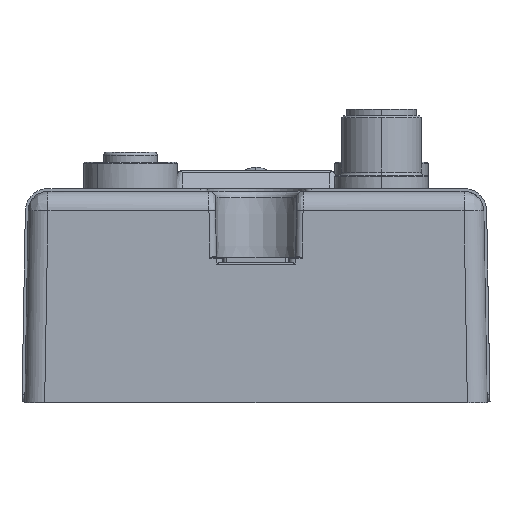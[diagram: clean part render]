
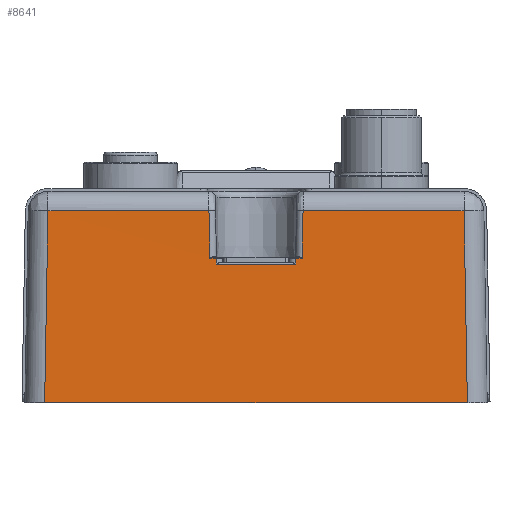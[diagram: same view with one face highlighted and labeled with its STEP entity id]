
A CAD part, front view. The second image highlights one B-rep face of the part: STEP entity #8641.
In plain terms, the highlighted planar face has unit normal (0, -1, 0.018).
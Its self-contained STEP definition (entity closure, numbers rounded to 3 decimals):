
#94 = VECTOR ( 'NONE', #46436, 1000. ) ;
#240 = DIRECTION ( 'NONE',  ( -0.017, 0.017, 1. ) ) ;
#1642 = LINE ( 'NONE', #53642, #23907 ) ;
#2965 = ORIENTED_EDGE ( 'NONE', *, *, #16275, .F. ) ;
#3152 = CARTESIAN_POINT ( 'NONE',  ( -7.123, -46.001, -2.948 ) ) ;
#3239 = VECTOR ( 'NONE', #22641, 1000. ) ;
#3610 = DIRECTION ( 'NONE',  ( 1., 0., 0. ) ) ;
#4144 = LINE ( 'NONE', #32236, #26419 ) ;
#4747 = DIRECTION ( 'NONE',  ( -0.017, -0.017, -1. ) ) ;
#5826 = CARTESIAN_POINT ( 'NONE',  ( 6.012, -46.118, -10.098 ) ) ;
#6117 = CARTESIAN_POINT ( 'NONE',  ( -34.441, -45.941, 0. ) ) ;
#6148 = ORIENTED_EDGE ( 'NONE', *, *, #49712, .F. ) ;
#6673 = VECTOR ( 'NONE', #3610, 1000. ) ;
#7989 = ORIENTED_EDGE ( 'NONE', *, *, #12023, .T. ) ;
#8093 = LINE ( 'NONE', #30284, #6673 ) ;
#8608 = LINE ( 'NONE', #57698, #53236 ) ;
#8641 = ADVANCED_FACE ( 'NONE', ( #34642 ), #41799, .T. ) ;
#8847 = ORIENTED_EDGE ( 'NONE', *, *, #26259, .F. ) ;
#9290 = VECTOR ( 'NONE', #25225, 1000. ) ;
#11621 = VERTEX_POINT ( 'NONE', #41760 ) ;
#12023 = EDGE_CURVE ( 'NONE', #43980, #33550, #8608, .T. ) ;
#12284 = DIRECTION ( 'NONE',  ( -0.017, 0.017, 1. ) ) ;
#12405 = VECTOR ( 'NONE', #12284, 1000. ) ;
#12699 = VECTOR ( 'NONE', #54310, 1000. ) ;
#13102 = EDGE_CURVE ( 'NONE', #44619, #13925, #28041, .T. ) ;
#13925 = VERTEX_POINT ( 'NONE', #23413 ) ;
#14080 = LINE ( 'NONE', #23105, #12699 ) ;
#14594 = ORIENTED_EDGE ( 'NONE', *, *, #30522, .T. ) ;
#15022 = LINE ( 'NONE', #31646, #37393 ) ;
#15243 = CARTESIAN_POINT ( 'NONE',  ( 6.012, -46.118, -10.098 ) ) ;
#16211 = DIRECTION ( 'NONE',  ( -1., 0., 0. ) ) ;
#16275 = EDGE_CURVE ( 'NONE', #29130, #16699, #8093, .T. ) ;
#16332 = CARTESIAN_POINT ( 'NONE',  ( -6.012, -46.118, -10.098 ) ) ;
#16699 = VERTEX_POINT ( 'NONE', #3152 ) ;
#18171 = CARTESIAN_POINT ( 'NONE',  ( 31.432, -45.932, 0.548 ) ) ;
#19607 = LINE ( 'NONE', #33978, #30082 ) ;
#19746 = LINE ( 'NONE', #51929, #9290 ) ;
#19927 = VERTEX_POINT ( 'NONE', #37349 ) ;
#21778 = EDGE_CURVE ( 'NONE', #48766, #43980, #35673, .T. ) ;
#21971 = EDGE_CURVE ( 'NONE', #19927, #48766, #19607, .T. ) ;
#22159 = DIRECTION ( 'NONE',  ( -1., 0., 0. ) ) ;
#22352 = CARTESIAN_POINT ( 'NONE',  ( 0., -46.5, -32. ) ) ;
#22641 = DIRECTION ( 'NONE',  ( 0.017, -0.017, -1. ) ) ;
#23105 = CARTESIAN_POINT ( 'NONE',  ( -17.221, -45.993, -2.948 ) ) ;
#23233 = DIRECTION ( 'NONE',  ( -1., 0., 0. ) ) ;
#23413 = CARTESIAN_POINT ( 'NONE',  ( -32., -46.5, -32. ) ) ;
#23907 = VECTOR ( 'NONE', #240, 1000. ) ;
#24037 = DIRECTION ( 'NONE',  ( 0., -1., 0.017 ) ) ;
#25225 = DIRECTION ( 'NONE',  ( -0.017, -0.017, -1. ) ) ;
#26259 = EDGE_CURVE ( 'NONE', #31843, #44619, #38790, .T. ) ;
#26263 = EDGE_CURVE ( 'NONE', #55075, #19927, #15022, .T. ) ;
#26419 = VECTOR ( 'NONE', #23233, 1000. ) ;
#28041 = LINE ( 'NONE', #22352, #50376 ) ;
#28558 = ORIENTED_EDGE ( 'NONE', *, *, #26263, .T. ) ;
#29130 = VERTEX_POINT ( 'NONE', #38959 ) ;
#29798 = ORIENTED_EDGE ( 'NONE', *, *, #13102, .F. ) ;
#30082 = VECTOR ( 'NONE', #16211, 1000. ) ;
#30284 = CARTESIAN_POINT ( 'NONE',  ( -17.221, -45.993, -2.948 ) ) ;
#30522 = EDGE_CURVE ( 'NONE', #29130, #13925, #19746, .T. ) ;
#31646 = CARTESIAN_POINT ( 'NONE',  ( 7.123, -45.993, -2.948 ) ) ;
#31843 = VERTEX_POINT ( 'NONE', #53901 ) ;
#32236 = CARTESIAN_POINT ( 'NONE',  ( -34.441, -46.118, -10.098 ) ) ;
#33128 = ORIENTED_EDGE ( 'NONE', *, *, #48239, .T. ) ;
#33550 = VERTEX_POINT ( 'NONE', #39091 ) ;
#33978 = CARTESIAN_POINT ( 'NONE',  ( -34.441, -46.118, -10.098 ) ) ;
#34642 = FACE_OUTER_BOUND ( 'NONE', #55144, .T. ) ;
#35673 = LINE ( 'NONE', #15243, #94 ) ;
#36127 = LINE ( 'NONE', #39024, #12405 ) ;
#36214 = ORIENTED_EDGE ( 'NONE', *, *, #53508, .T. ) ;
#37349 = CARTESIAN_POINT ( 'NONE',  ( 6.998, -46.118, -10.098 ) ) ;
#37393 = VECTOR ( 'NONE', #4747, 1000. ) ;
#38790 = LINE ( 'NONE', #18171, #3239 ) ;
#38959 = CARTESIAN_POINT ( 'NONE',  ( -31.493, -45.993, -2.948 ) ) ;
#39024 = CARTESIAN_POINT ( 'NONE',  ( -6.998, -46.118, -10.098 ) ) ;
#39091 = CARTESIAN_POINT ( 'NONE',  ( -5.996, -46.133, -10.997 ) ) ;
#40287 = EDGE_CURVE ( 'NONE', #51075, #11621, #4144, .T. ) ;
#41760 = CARTESIAN_POINT ( 'NONE',  ( -6.998, -46.118, -10.098 ) ) ;
#41799 = PLANE ( 'NONE',  #52888 ) ;
#43980 = VERTEX_POINT ( 'NONE', #51788 ) ;
#44232 = DIRECTION ( 'NONE',  ( -1., 0., 0. ) ) ;
#44619 = VERTEX_POINT ( 'NONE', #49183 ) ;
#46436 = DIRECTION ( 'NONE',  ( -0.017, -0.017, -1. ) ) ;
#48239 = EDGE_CURVE ( 'NONE', #33550, #51075, #1642, .T. ) ;
#48766 = VERTEX_POINT ( 'NONE', #5826 ) ;
#49183 = CARTESIAN_POINT ( 'NONE',  ( 32., -46.5, -32. ) ) ;
#49712 = EDGE_CURVE ( 'NONE', #55075, #31843, #14080, .T. ) ;
#50134 = ORIENTED_EDGE ( 'NONE', *, *, #21971, .T. ) ;
#50376 = VECTOR ( 'NONE', #22159, 1000. ) ;
#51075 = VERTEX_POINT ( 'NONE', #16332 ) ;
#51788 = CARTESIAN_POINT ( 'NONE',  ( 5.996, -46.133, -10.997 ) ) ;
#51929 = CARTESIAN_POINT ( 'NONE',  ( -31.493, -45.993, -2.948 ) ) ;
#52888 = AXIS2_PLACEMENT_3D ( 'NONE', #6117, #24037, #55242 ) ;
#53236 = VECTOR ( 'NONE', #44232, 1000. ) ;
#53274 = ORIENTED_EDGE ( 'NONE', *, *, #21778, .T. ) ;
#53508 = EDGE_CURVE ( 'NONE', #11621, #16699, #36127, .T. ) ;
#53641 = CARTESIAN_POINT ( 'NONE',  ( 7.123, -45.993, -2.948 ) ) ;
#53642 = CARTESIAN_POINT ( 'NONE',  ( -5.996, -46.133, -10.997 ) ) ;
#53901 = CARTESIAN_POINT ( 'NONE',  ( 31.493, -45.993, -2.948 ) ) ;
#54310 = DIRECTION ( 'NONE',  ( 1., 0., 0. ) ) ;
#55051 = ORIENTED_EDGE ( 'NONE', *, *, #40287, .T. ) ;
#55075 = VERTEX_POINT ( 'NONE', #53641 ) ;
#55144 = EDGE_LOOP ( 'NONE', ( #6148, #28558, #50134, #53274, #7989, #33128, #55051, #36214, #2965, #14594, #29798, #8847 ) ) ;
#55242 = DIRECTION ( 'NONE',  ( 0., -0.017, -1. ) ) ;
#57698 = CARTESIAN_POINT ( 'NONE',  ( -34.441, -46.133, -10.997 ) ) ;
